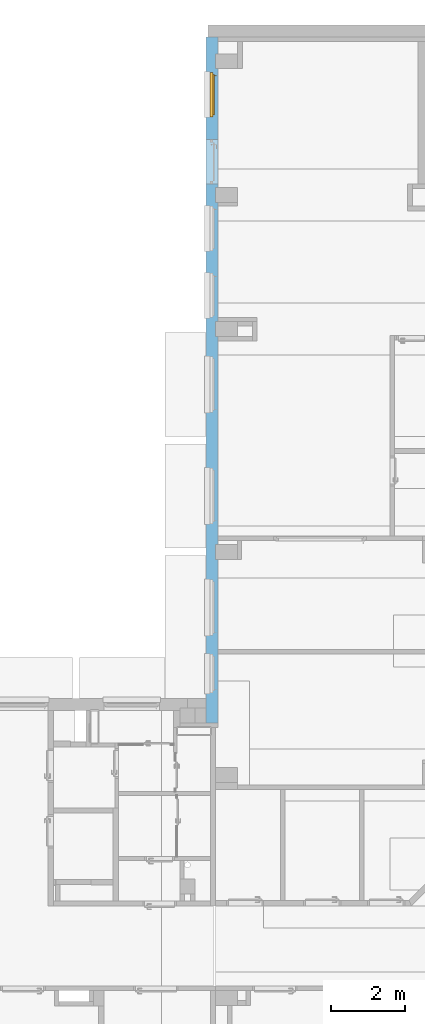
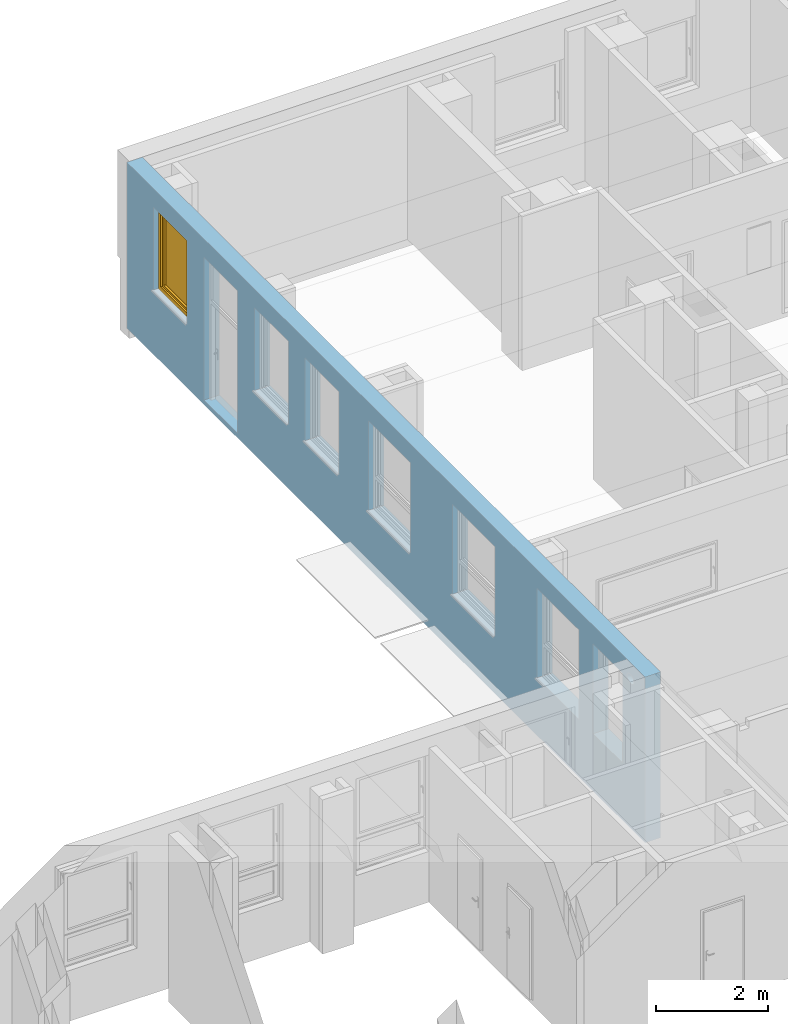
# One storey, part 47 of 140: 1 window, 9 openings, plus 1 element that does not belong to this part.
"""IFC4 building model written with IfcOpenShell, lengths in metres."""

from ifc_helpers import new_model, entity, si_unit, converted_unit, derived_unit, frame, frame_2d, origin, origin_with_axes, place, context, subcontext, project, spatial, polyline, rectangle, outline, extrude, clip, bounded_halfspace, closed_shell, open_shell, surface_model, source, transform, mapped, material, layer, layer_set, layer_usage, element, fill, save


model = new_model("IFC4")

# Units and contexts
model_context = context("Model", 3, precision=1e-05, world=origin())
body_context = subcontext(model_context, "Body", "Model", "MODEL_VIEW")
ifc_project = project(units=[si_unit("LENGTHUNIT", "METRE"), si_unit("AREAUNIT", "SQUARE_METRE"), si_unit("VOLUMEUNIT", "CUBIC_METRE"), si_unit("MASSUNIT", "GRAM", prefix="KILO"), converted_unit("PLANEANGLEUNIT", "DEGREE", entity("IfcPlaneAngleMeasure", 0.0174532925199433), si_unit("PLANEANGLEUNIT", "RADIAN"), dimensions=[0, 0, 0, 0, 0, 0, 0]), derived_unit("THERMALTRANSMITTANCEUNIT", [(si_unit("POWERUNIT", "WATT"), 1), (si_unit("THERMODYNAMICTEMPERATUREUNIT", "KELVIN"), -1), (si_unit("LENGTHUNIT", "METRE"), -2)]), derived_unit("VOLUMETRICFLOWRATEUNIT", [(si_unit("LENGTHUNIT", "METRE"), 3), (converted_unit("TIMEUNIT", "hour", entity("IfcTimeMeasure", 3600.0), si_unit("TIMEUNIT", "SECOND"), dimensions=[0, 0, 1, 0, 0, 0, 0]), -1), (si_unit("LENGTHUNIT", "METRE"), -1)])], contexts=[model_context])

# Site, building, storey
site_placement = place(None, origin())
site = spatial("IfcSite", under=ifc_project, at=site_placement, Name="3. ASŘ", CompositionType="ELEMENT")
building_placement = place(site_placement, origin())
building = spatial("IfcBuilding", under=site, at=building_placement, Name="Pavilon C", CompositionType="ELEMENT")
storey_placement = place(building_placement, origin())
storey = spatial("IfcBuildingStorey", under=building, at=storey_placement, Name="Půdorys 1.NP", CompositionType="ELEMENT", Elevation=0.0)

# Wall, openings, window
ifc_material = material(Name="ZELEZOBETONOVÁ KCE")
ifc_layer = layer(ifc_material, 0.32)
ifc_layer_set = layer_set([ifc_layer])
ifc_layer_usage = layer_usage(ifc_layer_set, "AXIS2", "POSITIVE", 0.0)
wall_placement = place(storey_placement, frame((24.5, 33.05, -0.1), z_axis=(0.0, 0.0, 1.0), x_axis=(-1.97180423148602e-16, -1.0, 0.0)))
wall = element("IfcWall", 1, at=wall_placement, inside=storey, material=ifc_layer_usage, Name="ZELEZOBETONOVÁ KCE", context=body_context, shape_type="Clipping", body=[
    clip(clip(clip(clip(extrude(rectangle(XDim=18.45, YDim=0.32, at=frame_2d((9.225, 0.16), x_axis=(1.0, 0.0))), origin_with_axes(), (0.0, 0.0, 1.0), 3.6), bounded_halfspace(frame((0.65, 0.285, 3.35), z_axis=(0.0, 0.0, 1.0), x_axis=(1.97180423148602e-16, -1.0, 0.0)), True, origin_with_axes(), polyline([(0.45, 0.32), (0.45, 0.250000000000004), (0.85, 0.250000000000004), (0.85, 0.32), (0.45, 0.32)]))), bounded_halfspace(frame((4.25, 0.285000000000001, 3.35), z_axis=(0.0, 0.0, 1.0), x_axis=(1.97180423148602e-16, -1.0, 0.0)), True, origin_with_axes(), polyline([(4.05, 0.320000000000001), (4.05, 0.250000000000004), (4.45, 0.250000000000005), (4.45, 0.320000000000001), (4.05, 0.320000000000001)]))), bounded_halfspace(frame((7.85, 0.285000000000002, 3.35), z_axis=(0.0, 0.0, 1.0), x_axis=(1.97180423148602e-16, -1.0, 0.0)), True, origin_with_axes(), polyline([(7.65, 0.320000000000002), (7.65, 0.250000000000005), (8.05, 0.250000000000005), (8.05, 0.320000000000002), (7.65, 0.320000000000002)]))), bounded_halfspace(frame((13.85, 0.285000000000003, 3.35), z_axis=(0.0, 0.0, 1.0), x_axis=(1.97180423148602e-16, -1.0, 0.0)), True, origin_with_axes(), polyline([(13.65, 0.320000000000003), (13.65, 0.250000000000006), (14.05, 0.250000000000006), (14.05, 0.320000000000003), (13.65, 0.320000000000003)]))),
])
opening_1_placement = place(wall_placement, frame((18.3295933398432, 0.32, 3.15000000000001), z_axis=(-0.642787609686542, -0.766044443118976, 0.0), x_axis=(0.0, 0.0, 1.0)))
element("IfcOpeningElement", 2, at=opening_1_placement, cuts=wall, Name="CHL", ObjectType="Opening", context=body_context, shape_type="SweptSolid", body=[
    extrude(outline(polyline([(0.0999999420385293, 0.0), (0.0895470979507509, 0.000547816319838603), (0.0792087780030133, 0.00218525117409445), (0.0690982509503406, 0.00489436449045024), (0.059326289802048, 0.00864547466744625), (0.0499999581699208, 0.0133974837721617), (0.0412214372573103, 0.0190983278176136), (0.0330869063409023, 0.0256855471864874), (0.0256854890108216, 0.0330869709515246), (0.0190982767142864, 0.041221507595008), (0.0133974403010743, 0.0500000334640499), (0.00864543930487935, 0.0593263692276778), (0.0048943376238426, 0.0690983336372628), (0.00218523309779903, 0.0792088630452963), (0.000547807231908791, 0.0895471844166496), (0.0, 0.10000002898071), (0.000547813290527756, 0.110452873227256), (0.00218524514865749, 0.120791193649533), (0.00489435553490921, 0.130901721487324), (0.00864546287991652, 0.140673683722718), (0.0133974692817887, 0.150000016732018), (0.0190983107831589, 0.158778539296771), (0.0256855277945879, 0.166913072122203), (0.0330869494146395, 0.174314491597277), (0.0412214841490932, 0.180901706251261), (0.0500000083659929, 0.186602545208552), (0.0593263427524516, 0.191354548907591), (0.06909830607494, 0.195105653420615), (0.0792088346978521, 0.197814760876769), (0.0895471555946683, 0.199452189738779), (0.0999999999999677, 0.2), (0.110452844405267, 0.199452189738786), (0.120791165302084, 0.197814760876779), (0.130901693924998, 0.195105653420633), (0.140673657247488, 0.191354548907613), (0.14999999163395, 0.186602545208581), (0.158778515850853, 0.180901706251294), (0.16691305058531, 0.174314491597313), (0.174314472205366, 0.166913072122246), (0.180901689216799, 0.158778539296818), (0.186602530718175, 0.150000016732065), (0.191354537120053, 0.140673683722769), (0.195105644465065, 0.130901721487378), (0.197814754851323, 0.120791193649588), (0.199452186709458, 0.11045287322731), (0.199999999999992, 0.100000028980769), (0.199452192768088, 0.0895471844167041), (0.197814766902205, 0.0792088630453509), (0.195105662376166, 0.0690983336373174), (0.191354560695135, 0.0593263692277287), (0.186602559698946, 0.0500000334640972), (0.180901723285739, 0.0412215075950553), (0.174314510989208, 0.0330869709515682), (0.166913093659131, 0.0256855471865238), (0.158778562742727, 0.0190983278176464), (0.15000004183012, 0.0133974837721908), (0.140673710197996, 0.00864547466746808), (0.130901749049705, 0.00489436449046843), (0.120791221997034, 0.00218525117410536), (0.110452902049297, 0.000547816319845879), (0.0999999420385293, 0.0)])), origin_with_axes(), (0.0, 0.0, 1.0), 0.952730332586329),
])
opening_2_placement = place(wall_placement, frame((14.6, -7.5914462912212e-16, 1.25), z_axis=(0.0, 1.0, 0.0), x_axis=(0.0, 0.0, 1.0)))
element("IfcOpeningElement", 3, at=opening_2_placement, cuts=wall, Name="Okenní otvor", ObjectType="Opening", context=body_context, shape_type="SweptSolid", body=[
    extrude(outline(polyline([(0.0, 1.5), (1.95, 1.5), (1.95, 0.0), (0.0, 0.0), (0.0, 1.5)])), origin_with_axes(), (0.0, 0.0, 1.0), 0.32),
])
opening_3_placement = place(wall_placement, frame((11.6, -1.35068589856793e-15, 1.25), z_axis=(0.0, 1.0, 0.0), x_axis=(0.0, 0.0, 1.0)))
element("IfcOpeningElement", 4, at=opening_3_placement, cuts=wall, Name="Okenní otvor", ObjectType="Opening", context=body_context, shape_type="SweptSolid", body=[
    extrude(outline(polyline([(0.0, 1.5), (1.95, 1.5), (1.95, 0.0), (0.0, 0.0), (0.0, 1.5)])), origin_with_axes(), (0.0, 0.0, 1.0), 0.32),
])
opening_4_placement = place(wall_placement, frame((8.6, -1.94222716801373e-15, 1.25), z_axis=(0.0, 1.0, 0.0), x_axis=(0.0, 0.0, 1.0)))
element("IfcOpeningElement", 5, at=opening_4_placement, cuts=wall, Name="Okenní otvor", ObjectType="Opening", context=body_context, shape_type="SweptSolid", body=[
    extrude(outline(polyline([(0.0, 1.5), (1.95, 1.5), (1.95, 0.0), (0.0, 0.0), (0.0, 1.5)])), origin_with_axes(), (0.0, 0.0, 1.0), 0.320000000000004),
])
opening_5_placement = place(wall_placement, frame((6.35, 1.25209568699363e-15, 1.4), z_axis=(0.0, 1.0, 0.0), x_axis=(0.0, 0.0, 1.0)))
element("IfcOpeningElement", 6, at=opening_5_placement, cuts=wall, Name="Okenní otvor", ObjectType="Opening", context=body_context, shape_type="SweptSolid", body=[
    extrude(outline(polyline([(0.0, 1.2), (1.8, 1.2), (1.8, 0.0), (0.0, 0.0), (0.0, 1.2)])), origin_with_axes(), (0.0, 0.0, 1.0), 0.32),
])
opening_6_placement = place(wall_placement, frame((4.55000000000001, 8.97170925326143e-16, 1.4), z_axis=(0.0, 1.0, 0.0), x_axis=(0.0, 0.0, 1.0)))
element("IfcOpeningElement", 7, at=opening_6_placement, cuts=wall, Name="Okenní otvor", ObjectType="Opening", context=body_context, shape_type="SweptSolid", body=[
    extrude(outline(polyline([(0.0, 1.2), (1.8, 1.2), (1.8, 0.0), (0.0, 0.0), (0.0, 1.2)])), origin_with_axes(), (0.0, 0.0, 1.0), 0.32),
])
opening_7_placement = place(wall_placement, frame((0.950000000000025, 1.87321401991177e-16, 1.4), z_axis=(-3.5527136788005e-16, 1.0, 0.0), x_axis=(0.0, 0.0, 1.0)))
opening_7 = element("IfcOpeningElement", 8, at=opening_7_placement, cuts=wall, Name="Okenní otvor", ObjectType="Opening", context=body_context, shape_type="SweptSolid", body=[
    extrude(outline(polyline([(0.0, 1.2), (1.8, 1.2), (1.8, 0.0), (0.0, 0.0), (0.0, 1.2)])), origin_with_axes(), (0.0, 0.0, 1.0), 0.32),
])
opening_8_placement = place(wall_placement, frame((2.75000000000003, 5.42246163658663e-16, 0.1), z_axis=(0.0, 1.0, 0.0), x_axis=(0.0, 0.0, 1.0)))
element("IfcOpeningElement", 9, at=opening_8_placement, cuts=wall, Name="Dveřní otvor", ObjectType="Opening", context=body_context, shape_type="SweptSolid", body=[
    extrude(outline(polyline([(0.0, 1.2), (3.1, 1.2), (3.1, 0.0), (0.0, 0.0), (0.0, 1.2)])), origin_with_axes(), (0.0, 0.0, 1.0), 0.32),
])
opening_9_placement = place(wall_placement, frame((16.6, -3.64783782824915e-16, 1.25), z_axis=(0.0, 1.0, 0.0), x_axis=(0.0, 0.0, 1.0)))
element("IfcOpeningElement", 10, at=opening_9_placement, cuts=wall, Name="Okenní otvor", ObjectType="Opening", context=body_context, shape_type="SweptSolid", body=[
    extrude(outline(polyline([(0.0, 1.05), (1.95, 1.05), (1.95, 0.0), (0.0, 0.0), (0.0, 1.05)])), origin_with_axes(), (0.0, 0.0, 1.0), 0.32),
])
shared_shape = source(origin_with_axes(), body_context, "Body", "SurfaceModel", [
    surface_model("IfcShellBasedSurfaceModel", [(0.0, 0.182, 1.8), (0.0, 0.182, -5.63337527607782e-18), (0.08, 0.182, -5.63337527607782e-18), (0.08, 0.182, 1.8), (0.0, 0.0899999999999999, 5.63337527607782e-18), (0.0, 0.0900000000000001, 1.8), (0.08, 0.0900000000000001, 1.8), (0.08, 0.0899999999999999, 5.63337527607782e-18)], [closed_shell([[[0, 1, 2, 3]], [[4, 5, 6, 7]], [[1, 0, 5, 4]], [[2, 1, 4, 7]], [[3, 2, 7, 6]], [[0, 3, 6, 5]]], orient=[[False], [False], [False], [False], [False], [False]])]),
    surface_model("IfcShellBasedSurfaceModel", [(1.12, 0.182, 1.8), (1.12, 0.182, -5.63337527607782e-18), (1.2, 0.182, -5.63337527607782e-18), (1.2, 0.182, 1.8), (1.12, 0.0899999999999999, 5.63337527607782e-18), (1.12, 0.0900000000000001, 1.8), (1.2, 0.0900000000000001, 1.8), (1.2, 0.0899999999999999, 5.63337527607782e-18)], [closed_shell([[[0, 1, 2, 3]], [[4, 5, 6, 7]], [[1, 0, 5, 4]], [[2, 1, 4, 7]], [[3, 2, 7, 6]], [[0, 3, 6, 5]]], orient=[[False], [False], [False], [False], [False], [False]])]),
    surface_model("IfcShellBasedSurfaceModel", [(0.08, 0.182, 0.08), (0.08, 0.182, -5.63337527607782e-18), (1.12, 0.182, -5.63337527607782e-18), (1.12, 0.182, 0.08), (0.08, 0.0899999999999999, 5.63337527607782e-18), (0.08, 0.0899999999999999, 0.08), (1.12, 0.0899999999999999, 0.08), (1.12, 0.0899999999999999, 5.63337527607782e-18)], [closed_shell([[[0, 1, 2, 3]], [[4, 5, 6, 7]], [[1, 0, 5, 4]], [[2, 1, 4, 7]], [[3, 2, 7, 6]], [[0, 3, 6, 5]]], orient=[[False], [False], [False], [False], [False], [False]])]),
    surface_model("IfcShellBasedSurfaceModel", [(0.08, 0.182, 1.8), (0.08, 0.182, 1.72), (1.12, 0.182, 1.72), (1.12, 0.182, 1.8), (0.08, 0.0900000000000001, 1.72), (0.08, 0.0900000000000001, 1.8), (1.12, 0.0900000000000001, 1.8), (1.12, 0.0900000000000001, 1.72)], [closed_shell([[[0, 1, 2, 3]], [[4, 5, 6, 7]], [[1, 0, 5, 4]], [[2, 1, 4, 7]], [[3, 2, 7, 6]], [[0, 3, 6, 5]]], orient=[[False], [False], [False], [False], [False], [False]])]),
    surface_model("IfcShellBasedSurfaceModel", [(0.05, 0.145, 1.75), (0.05, 0.145, 0.05), (0.13, 0.145, 0.05), (0.13, 0.145, 1.75), (0.05, 0.0599999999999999, 0.05), (0.05, 0.0600000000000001, 1.75), (0.13, 0.0600000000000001, 1.75), (0.13, 0.0599999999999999, 0.05)], [closed_shell([[[0, 1, 2, 3]], [[4, 5, 6, 7]], [[1, 0, 5, 4]], [[2, 1, 4, 7]], [[3, 2, 7, 6]], [[0, 3, 6, 5]]], orient=[[False], [False], [False], [False], [False], [False]])]),
    surface_model("IfcShellBasedSurfaceModel", [(1.07, 0.145, 1.75), (1.07, 0.145, 0.05), (1.15, 0.145, 0.05), (1.15, 0.145, 1.75), (1.07, 0.0599999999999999, 0.05), (1.07, 0.0600000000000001, 1.75), (1.15, 0.0600000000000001, 1.75), (1.15, 0.0599999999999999, 0.05)], [closed_shell([[[0, 1, 2, 3]], [[4, 5, 6, 7]], [[1, 0, 5, 4]], [[2, 1, 4, 7]], [[3, 2, 7, 6]], [[0, 3, 6, 5]]], orient=[[False], [False], [False], [False], [False], [False]])]),
    surface_model("IfcShellBasedSurfaceModel", [(0.13, 0.145, 0.13), (0.13, 0.145, 0.05), (1.07, 0.145, 0.05), (1.07, 0.145, 0.13), (0.13, 0.0599999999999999, 0.05), (0.13, 0.0599999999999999, 0.13), (1.07, 0.0599999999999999, 0.13), (1.07, 0.0599999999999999, 0.05)], [closed_shell([[[0, 1, 2, 3]], [[4, 5, 6, 7]], [[1, 0, 5, 4]], [[2, 1, 4, 7]], [[3, 2, 7, 6]], [[0, 3, 6, 5]]], orient=[[False], [False], [False], [False], [False], [False]])]),
    surface_model("IfcShellBasedSurfaceModel", [(0.13, 0.145, 1.75), (0.13, 0.145, 1.67), (1.07, 0.145, 1.67), (1.07, 0.145, 1.75), (0.13, 0.0600000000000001, 1.67), (0.13, 0.0600000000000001, 1.75), (1.07, 0.0600000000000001, 1.75), (1.07, 0.0600000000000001, 1.67)], [closed_shell([[[0, 1, 2, 3]], [[4, 5, 6, 7]], [[1, 0, 5, 4]], [[2, 1, 4, 7]], [[3, 2, 7, 6]], [[0, 3, 6, 5]]], orient=[[False], [False], [False], [False], [False], [False]])]),
    surface_model("IfcShellBasedSurfaceModel", [(1.0975, 0.06, 0.92), (1.0975, 0.06, 0.88), (1.1225, 0.06, 0.88), (1.1225, 0.06, 0.92), (1.0975, 0.05, 0.88), (1.0975, 0.05, 0.92), (1.1225, 0.05, 0.92), (1.1225, 0.05, 0.88)], [closed_shell([[[0, 1, 2, 3]], [[4, 5, 6, 7]], [[1, 0, 5, 4]], [[2, 1, 4, 7]], [[3, 2, 7, 6]], [[0, 3, 6, 5]]], orient=[[False], [False], [False], [False], [False], [False]])]),
    surface_model("IfcShellBasedSurfaceModel", [(1.12, 0.05, 0.9), (1.11866025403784, 0.05, 0.905), (1.115, 0.05, 0.908660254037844), (1.11, 0.05, 0.91), (1.105, 0.05, 0.908660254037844), (1.10133974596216, 0.05, 0.905), (1.1, 0.05, 0.9), (1.10133974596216, 0.05, 0.895), (1.105, 0.05, 0.891339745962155), (1.11, 0.05, 0.89), (1.115, 0.05, 0.891339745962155), (1.11866025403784, 0.05, 0.895), (1.12, 0.01, 0.9), (1.11866025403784, 0.00500000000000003, 0.905), (1.115, 0.00133974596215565, 0.908660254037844), (1.11, 2.8421709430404e-17, 0.91), (1.105, 0.00133974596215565, 0.908660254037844), (1.10133974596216, 0.00500000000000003, 0.905), (1.1, 0.01, 0.9), (1.10133974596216, 0.015, 0.895), (1.105, 0.0186602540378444, 0.891339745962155), (1.11, 0.02, 0.89), (1.115, 0.0186602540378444, 0.891339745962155), (1.11866025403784, 0.015, 0.895), (1.12, 0.01, 0.785), (1.11866025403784, 0.005, 0.785), (1.115, 0.00133974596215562, 0.785), (1.11, 0.0, 0.785), (1.105, 0.00133974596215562, 0.785), (1.10133974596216, 0.005, 0.785), (1.1, 0.01, 0.785), (1.10133974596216, 0.015, 0.785), (1.105, 0.0186602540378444, 0.785), (1.11, 0.02, 0.785), (1.115, 0.0186602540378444, 0.785), (1.11866025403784, 0.015, 0.785)], [open_shell([[[0, 1, 2, 3, 4, 5, 6, 7, 8, 9, 10, 11]], [[0, 12, 13, 1]], [[1, 13, 14, 2]], [[2, 14, 15, 3]], [[3, 15, 16, 4]], [[4, 16, 17, 5]], [[5, 17, 18, 6]], [[6, 18, 19, 7]], [[7, 19, 20, 8]], [[8, 20, 21, 9]], [[9, 21, 22, 10]], [[10, 22, 23, 11]], [[11, 23, 12, 0]], [[12, 24, 25, 13]], [[13, 25, 26, 14]], [[14, 26, 27, 15]], [[15, 27, 28, 16]], [[16, 28, 29, 17]], [[17, 29, 30, 18]], [[18, 30, 31, 19]], [[19, 31, 32, 20]], [[20, 32, 33, 21]], [[21, 33, 34, 22]], [[22, 34, 35, 23]], [[23, 35, 24, 12]]], orient=[[False], [False], [False], [False], [False], [False], [False], [False], [False], [False], [False], [False], [False], [False], [False], [False], [False], [False], [False], [False], [False], [False], [False], [False], [False]])]),
    surface_model("IfcShellBasedSurfaceModel", [(0.13, 0.1025, 0.13), (1.07, 0.1025, 0.13), (1.07, 0.1025, 1.67), (0.13, 0.1025, 1.67)], [open_shell([[[0, 1, 2, 3]]], orient=[[False]])]),
])
window_placement = place(opening_7_placement, frame((0.0, 1.20000000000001, 0.281999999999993), z_axis=(1.0, 0.0, 0.0), x_axis=(0.0, -1.0, 2.80555624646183e-16)))
window = element("IfcWindow", 11, at=window_placement, inside=storey, Name="O06", OverallHeight=1.8, OverallWidth=1.2, PartitioningType="USERDEFINED", PredefinedType="WINDOW", context=body_context, shape_type="MappedRepresentation", body=[
    mapped(shared_shape, transform((0.0, 0.0, 0.0), x_axis=(1.0, 0.0, 0.0), y_axis=(0.0, 1.0, 0.0), z_axis=(0.0, 0.0, 1.0), scale=1.0)),
])
fill(opening_7, window)

save(model, "model.ifc")
